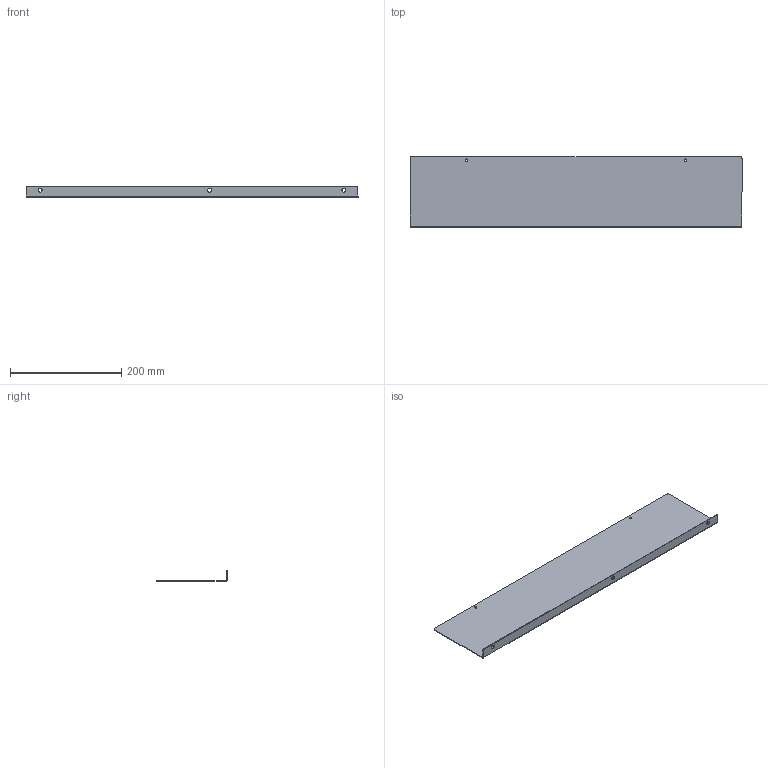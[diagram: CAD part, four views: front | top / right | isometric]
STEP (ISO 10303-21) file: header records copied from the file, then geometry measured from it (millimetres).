
FILE_DESCRIPTION((''),'2;1');
FILE_NAME('C:\Vault_Workspace\Inventor_Dwg\Inv-1\1100BA\WEBSITE\1100BA6024.stp','2015-02-02T15:11:05',('MichaelA'),(''),'Autodesk Inventor 2012','Autodesk Inventor 2012','');
FILE_SCHEMA(('AUTOMOTIVE_DESIGN { 1 0 10303 214 1 1 1 1 }'));
Length unit declared in the file: inch
Products named in the file (1): 1100BA-MASTER
Bounding box: 596.9 x 127 x 19.05 mm (x, y, z)
Volume: 119865.8 mm3; surface area: 173800.5 mm2
Topology: 1 solids, 1 shells, 23 faces, 55 edges, 34 vertices
Faces by surface type: plane 12, cylinder 11
Full cylindrical faces by diameter (mm): 4.496 x2, 7.137 x3
Entity records: 690 total; most frequent: DIRECTION 120, CARTESIAN_POINT 108, ORIENTED_EDGE 100, EDGE_CURVE 50, AXIS2_PLACEMENT_3D 46, EDGE_LOOP 38, VERTEX_POINT 34, VECTOR 28
